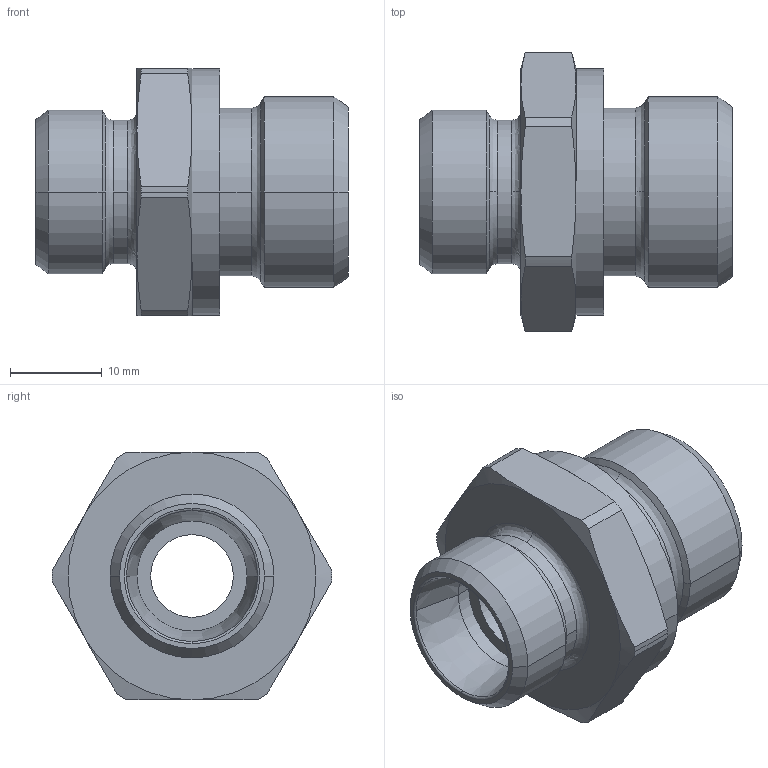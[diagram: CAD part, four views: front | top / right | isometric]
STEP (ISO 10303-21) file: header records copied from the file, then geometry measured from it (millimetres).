
FILE_DESCRIPTION((''),'2;1');
FILE_NAME('100532.stp','2007-10-30T14:35:41',(''),(''),'AutoCAD STEP 2000i','AutoCAD 2000i',', , ');
FILE_SCHEMA(('CONFIG_CONTROL_DESIGN'));
Length unit declared in the file: millimetre
Products named in the file (2): 100532.0; CHIAVE SMUSSATA#0
Assembly tree (1 placements, depth 2):
  100532.0
    CHIAVE SMUSSATA#0
Bounding box: 34 x 30.5 x 27 mm (x, y, z)
Volume: 9372.9 mm3; surface area: 4591.9 mm2
Topology: 1 solids, 1 shells, 75 faces, 185 edges, 117 vertices
Faces by surface type: cylinder 24, cone 24, plane 13, bspline 12, torus 2
Entity records: 2835 total; most frequent: CARTESIAN_POINT 955, DIRECTION 410, ORIENTED_EDGE 370, EDGE_CURVE 185, AXIS2_PLACEMENT_3D 184, CIRCLE 119, VERTEX_POINT 117, EDGE_LOOP 82
